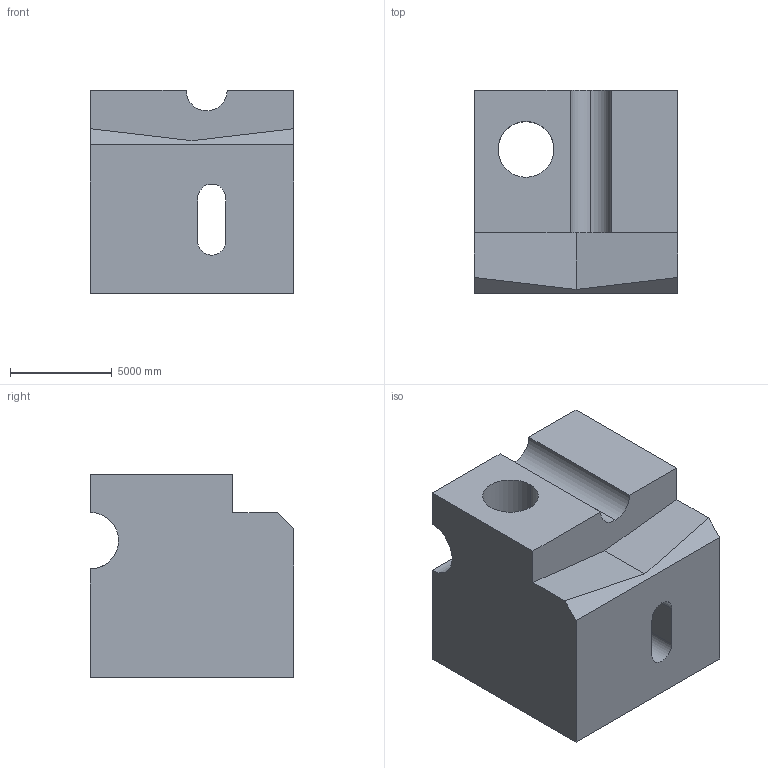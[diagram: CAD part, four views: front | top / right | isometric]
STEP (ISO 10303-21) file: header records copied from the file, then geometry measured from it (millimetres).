
FILE_DESCRIPTION (( 'STEP AP203' ), '1' );
FILE_NAME ('1510.STEP', '2022-08-18T14:56:02', ( 'user' ), ( '' ), 'SwSTEP 2.0', 'SolidWorks 2021', '' );
FILE_SCHEMA (( 'CONFIG_CONTROL_DESIGN' ));
Length unit declared in the file: centimetre
Products named in the file (1): 1510
Bounding box: 10000 x 10000 x 10000 mm (x, y, z)
Volume: 788714324584.2 mm3; surface area: 750997562.2 mm2
Topology: 1 solids, 1 shells, 22 faces, 63 edges, 42 vertices
Faces by surface type: plane 14, cylinder 8
Entity records: 910 total; most frequent: CARTESIAN_POINT 234, ORIENTED_EDGE 126, DIRECTION 123, EDGE_CURVE 63, VECTOR 45, LINE 45, VERTEX_POINT 42, AXIS2_PLACEMENT_3D 39
